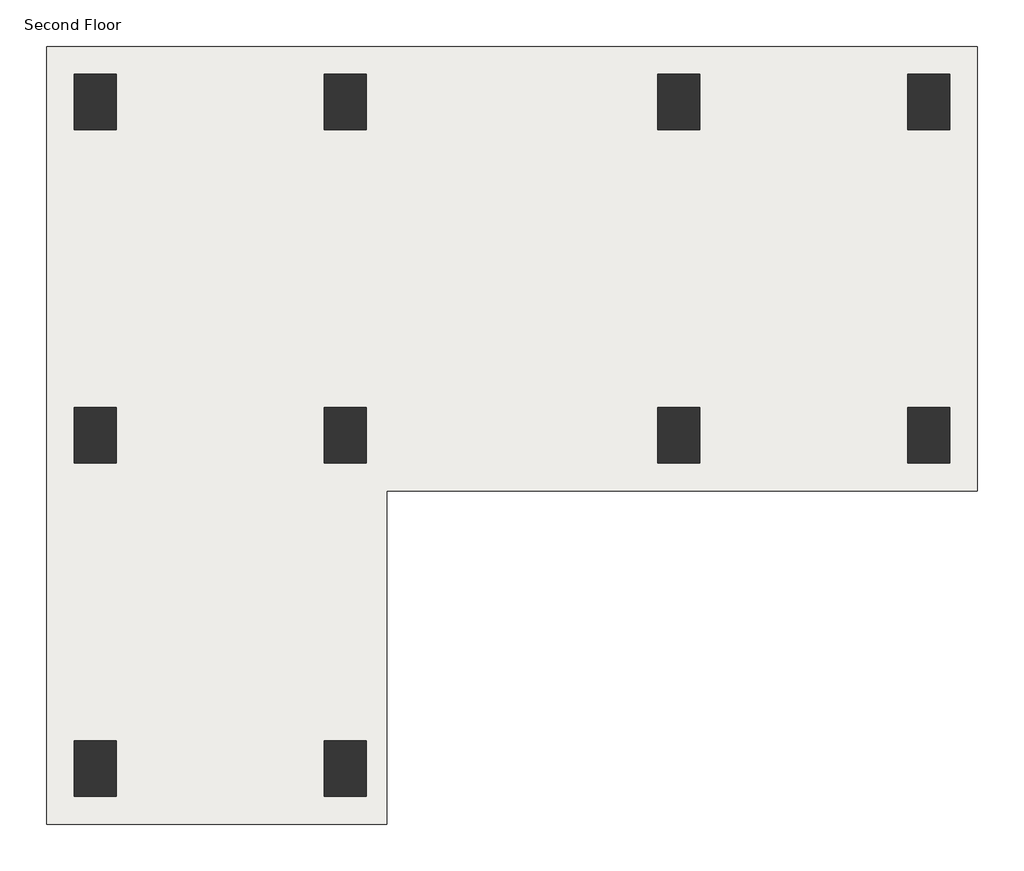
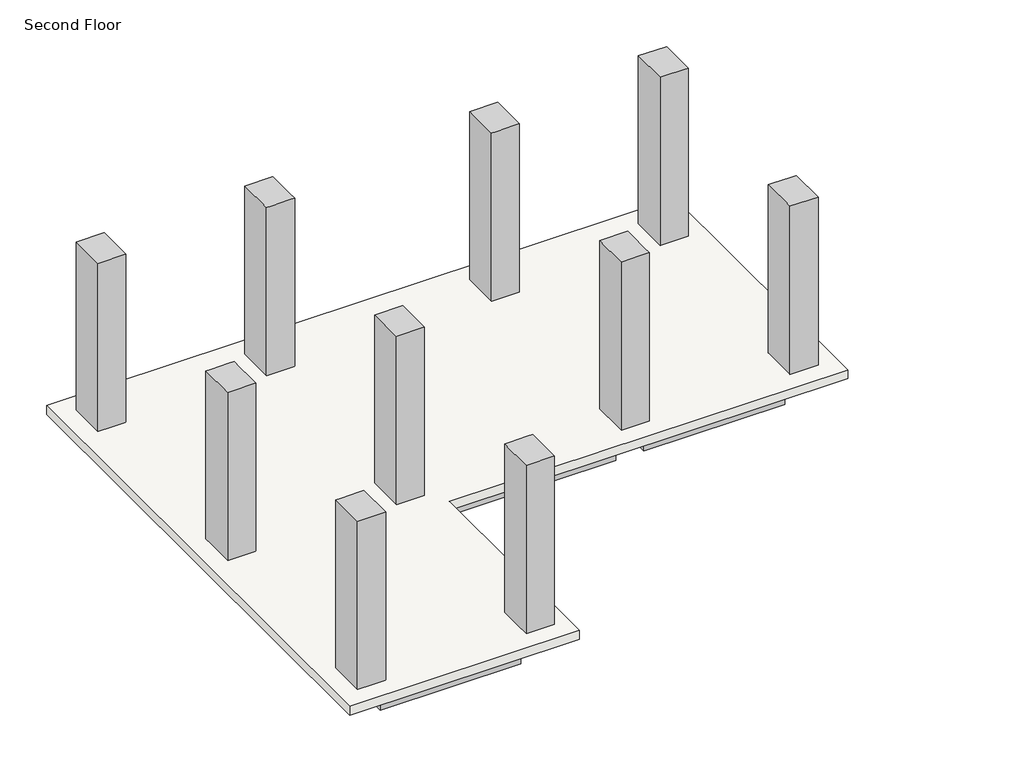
# One storey: 13 beams, 10 columns, 1 slab.
"""IFC4 building model written with IfcOpenShell, lengths in millimetres."""

import ifcopenshell
import ifcopenshell.guid

model = None  # the IFC model being written
_history = None  # IfcOwnerHistory: only IFC2X3 demands one
_inside = {}  # id of a spatial element -> (the spatial element, [elements in it])
_under = {}  # id of a project, library or spatial element -> (it, [spatial elements below it])
_declared = {}  # id of a project -> (the project, [libraries it declares])
_typed = {}  # id of a type object -> (the type object, [elements of that type])
_made_of = {}  # id of a material, layer set ... -> (it, [elements and type objects made of it])


def new_model(schema):
    """Start an empty IFC model of exactly this schema.

    Asked for "IFC4X3", IfcOpenShell would pick the latest addendum, in which some entities
    have other attributes; the version numbers below select the first issue.
    IFC2X3 requires an IfcOwnerHistory on every rooted entity: one is made here for all.
    """
    global model, _history
    if schema == "IFC4X3":
        model = ifcopenshell.file(schema_version=(4, 3, 0, 0))
    else:
        model = ifcopenshell.file(schema=schema)
    _inside.clear()
    _under.clear()
    _declared.clear()
    _typed.clear()
    _made_of.clear()
    _history = None
    if model.schema == "IFC2X3":
        org = make("IfcOrganization", Name="unknown")
        user = make(
            "IfcPersonAndOrganization",
            ThePerson=make("IfcPerson", FamilyName="unknown"),
            TheOrganization=org,
        )
        app = make(
            "IfcApplication",
            ApplicationDeveloper=org,
            Version="unknown",
            ApplicationFullName="unknown",
            ApplicationIdentifier="unknown",
        )
        _history = make(
            "IfcOwnerHistory",
            OwningUser=user,
            OwningApplication=app,
            ChangeAction="ADDED",
            CreationDate=0,
        )
    return model


def make(cls, **values):
    """One entity of the class cls with the attributes given. An attribute that is None is left unset."""
    return model.create_entity(
        cls, **{name: value for name, value in values.items() if value is not None}
    )


def rooted(cls, **values):
    """An entity with a GlobalId (a new one), such as an element, a storey or a relation."""
    return make(cls, GlobalId=ifcopenshell.guid.new(), OwnerHistory=_history, **values)


def si_unit(unit_type, name, prefix=None):
    """IfcSIUnit, for example si_unit("LENGTHUNIT", "METRE", prefix="MILLI")."""
    return make("IfcSIUnit", UnitType=unit_type, Prefix=prefix, Name=name)


def assignment(units):
    """IfcUnitAssignment: the units of a project."""
    return None if units is None else make("IfcUnitAssignment", Units=units)


def point(xyz):
    """IfcCartesianPoint."""
    return None if xyz is None else make("IfcCartesianPoint", Coordinates=xyz)


def direction(xyz):
    """IfcDirection."""
    return None if xyz is None else make("IfcDirection", DirectionRatios=xyz)


def frame(location, z_axis=None, x_axis=None):
    """IfcAxis2Placement3D, a coordinate frame: its origin and axes. An axis left out is left unset."""
    return make(
        "IfcAxis2Placement3D",
        Location=point(location),
        Axis=direction(z_axis),
        RefDirection=direction(x_axis),
    )


def origin():
    """The frame at (0, 0, 0) with its axes left unset."""
    return frame((0.0, 0.0, 0.0))


def place(relative_to, where):
    """IfcLocalPlacement: puts the frame where relative to a parent placement (None: the world)."""
    return make(
        "IfcLocalPlacement", PlacementRelTo=relative_to, RelativePlacement=where
    )


def context(
    kind, dimensions, precision=None, world=None, true_north=None, identifier=None
):
    """IfcGeometricRepresentationContext, for example the 3D "Model" context."""
    return make(
        "IfcGeometricRepresentationContext",
        ContextIdentifier=identifier,
        ContextType=kind,
        CoordinateSpaceDimension=dimensions,
        Precision=precision,
        WorldCoordinateSystem=world,
        TrueNorth=true_north,
    )


def project(units=None, contexts=None):
    """IfcProject with its units and contexts."""
    return rooted(
        "IfcProject",
        Name="project",
        RepresentationContexts=contexts,
        UnitsInContext=assignment(units),
    )


def spatial(cls, under=None, at=None, **own):
    """A site, building, storey or space (cls), placed at a placement, below another one or the project."""
    s = rooted(cls, ObjectPlacement=at, **own)
    if under is not None:
        _under.setdefault(under.id(), (under, []))[1].append(s)
    return s


def polyline(points):
    """IfcPolyline through the points."""
    return make("IfcPolyline", Points=[point(p) for p in points])


def outline(outer, holes=None, kind="AREA"):
    """IfcArbitraryClosedProfileDef: a profile drawn as a closed curve; with holes, ...WithVoids."""
    if holes is None:
        return make("IfcArbitraryClosedProfileDef", ProfileType=kind, OuterCurve=outer)
    return make(
        "IfcArbitraryProfileDefWithVoids",
        ProfileType=kind,
        OuterCurve=outer,
        InnerCurves=holes,
    )


def extrude(swept, where, along, depth):
    """IfcExtrudedAreaSolid: the profile swept, set in the frame where, extruded along a direction by depth."""
    return make(
        "IfcExtrudedAreaSolid",
        SweptArea=swept,
        Position=where,
        ExtrudedDirection=direction(along),
        Depth=depth,
    )


def faces_of(points, faces, orient=None, outer=None):
    """IfcFace entities. A face is a list of loops; a loop is a list of indices into points, from 0.

    orient and outer hold one flag for each loop. By default every Orientation is true, the
    first loop of a face is its IfcFaceOuterBound and the others are IfcFaceBound.
    """
    made = []
    for i, loops in enumerate(faces):
        bounds = []
        for j, loop in enumerate(loops):
            is_outer = j == 0 if outer is None else outer[i][j]
            bounds.append(
                make(
                    "IfcFaceOuterBound" if is_outer else "IfcFaceBound",
                    Bound=make("IfcPolyLoop", Polygon=[points[k] for k in loop]),
                    Orientation=True if orient is None else orient[i][j],
                )
            )
        made.append(make("IfcFace", Bounds=bounds))
    return made


def faceted_brep(points, faces, orient=None, outer=None, voids=None):
    """IfcFacetedBrep: a solid bounded by flat faces; with voids (closed shells), ...WithVoids."""
    shared = [point(p) for p in points]
    hull = make("IfcClosedShell", CfsFaces=faces_of(shared, faces, orient, outer))
    if voids is None:
        return make("IfcFacetedBrep", Outer=hull)
    return make(
        "IfcFacetedBrepWithVoids",
        Outer=hull,
        Voids=[
            make(cls, CfsFaces=faces_of(shared, fs, o, b)) for cls, fs, o, b in voids
        ],
    )


def shape(context_of_items, identifier, shape_type, items):
    """IfcShapeRepresentation: the items that make up one representation, for example the "Body"."""
    return make(
        "IfcShapeRepresentation",
        ContextOfItems=context_of_items,
        RepresentationIdentifier=identifier,
        RepresentationType=shape_type,
        Items=items,
    )


def made_of(thing, what):
    """Note that an element or type object is made of a material, layer set ...; save() writes the relation."""
    if what is not None:
        _made_of.setdefault(what.id(), (what, []))[1].append(thing)
    return thing


def element(
    cls,
    number,
    at=None,
    inside=None,
    cuts=None,
    type_object=None,
    material=None,
    context=None,
    identifier="Body",
    shape_type=None,
    held_by="IfcProductDefinitionShape",
    body=None,
    shapes=None,
    **own,
):
    """One element of the class cls, such as IfcWall. Its Tag is "e" and its number.

    at: its placement. inside: the storey or other place that contains it. cuts: it is an
    opening in that element (IfcRelVoidsElement). A single representation is given by context,
    identifier, shape_type and body (its items); several are given by shapes. held_by: the class
    of the entity that holds the representations. save() writes the other relations.
    """
    e = rooted(cls, Tag="e%d" % number, ObjectPlacement=at, **own)
    if body is not None:
        shapes = [shape(context, identifier, shape_type, body)]
    if shapes is not None:
        e.Representation = make(held_by, Representations=shapes)
    if inside is not None:
        _inside.setdefault(inside.id(), (inside, []))[1].append(e)
    if cuts is not None:
        rooted(
            "IfcRelVoidsElement", RelatingBuildingElement=cuts, RelatedOpeningElement=e
        )
    if type_object is not None:
        _typed.setdefault(type_object.id(), (type_object, []))[1].append(e)
    return made_of(e, material)


def aggregate(whole, parts):
    """IfcRelAggregates: a whole, such as a stair, and the parts it consists of."""
    return rooted("IfcRelAggregates", RelatingObject=whole, RelatedObjects=parts)


def save(model, path):
    """Write the relations noted so far, then the file.

    IfcRelAggregates (storeys below a building ...), IfcRelContainedInSpatialStructure (elements
    in a storey), IfcRelDefinesByType, IfcRelAssociatesMaterial and IfcRelDeclares: one each for
    every whole, place, type object, material and project.
    """
    for whole, parts in _under.values():
        aggregate(whole, parts)
    for where, things in _inside.values():
        rooted(
            "IfcRelContainedInSpatialStructure",
            RelatedElements=things,
            RelatingStructure=where,
        )
    for kind, things in _typed.values():
        rooted("IfcRelDefinesByType", RelatedObjects=things, RelatingType=kind)
    for what, things in _made_of.values():
        rooted("IfcRelAssociatesMaterial", RelatedObjects=things, RelatingMaterial=what)
    for by, libraries in _declared.values():
        rooted("IfcRelDeclares", RelatingContext=by, RelatedDefinitions=libraries)
    model.write(path)


model = new_model("IFC4")

# Units and contexts
model_context = context("Model", 3, world=origin())
ifc_project = project(units=[si_unit("LENGTHUNIT", "METRE", prefix="MILLI")], contexts=[model_context])

# Site, building, storey
site = spatial("IfcSite", under=ifc_project)
building = spatial("IfcBuilding", under=site)
storey = spatial("IfcBuildingStorey", under=building, Name="Second Floor", Elevation=9753.6)

# Beams
placement = place(None, origin())
element("IfcBeam", 1, ObjectType="Concrete-Rectangular Beam : 12 x 24", at=placement, inside=storey, context=model_context, shape_type="SweptSolid", body=[
    extrude(outline(polyline([(-23084.018666, 15705.8753347), (-23084.018666, 16010.6753347), (-20798.018666, 16010.6753347), (-20798.018666, 15705.8753347), (-23084.018666, 15705.8753347)])), frame((0.0, 0.0, 9144.0), z_axis=(0.0, 0.0, 1.0), x_axis=(1.0, 0.0, 0.0)), (0.0, 0.0, 1.0), 457.2),
])
element("IfcBeam", 2, ObjectType="Concrete-Rectangular Beam : 12 x 24", at=placement, inside=storey, context=model_context, shape_type="SweptSolid", body=[
    extrude(outline(polyline([(-20340.818666, 15705.8753347), (-20340.818666, 16010.6753347), (-17140.418666, 16010.6753347), (-17140.418666, 15705.8753347), (-20340.818666, 15705.8753347)])), frame((0.0, 0.0, 9144.0), z_axis=(0.0, 0.0, 1.0), x_axis=(1.0, 0.0, 0.0)), (0.0, 0.0, 1.0), 457.2),
])
element("IfcBeam", 3, ObjectType="Concrete-Rectangular Beam : 12 x 24", at=placement, inside=storey, context=model_context, shape_type="SweptSolid", body=[
    extrude(outline(polyline([(-16683.218666, 15705.8753347), (-16683.218666, 16010.6753347), (-14397.218666, 16010.6753347), (-14397.218666, 15705.8753347), (-16683.218666, 15705.8753347)])), frame((0.0, 0.0, 9144.0), z_axis=(0.0, 0.0, 1.0), x_axis=(1.0, 0.0, 0.0)), (0.0, 0.0, 1.0), 457.2),
])
element("IfcBeam", 4, ObjectType="Concrete-Rectangular Beam : 12 x 24", at=placement, inside=storey, context=model_context, shape_type="SweptSolid", body=[
    extrude(outline(polyline([(-14321.018666, 15553.4753347), (-14016.218666, 15553.4753347), (-14016.218666, 12505.4753347), (-14321.018666, 12505.4753347), (-14321.018666, 15553.4753347)])), frame((0.0, 0.0, 9144.0), z_axis=(0.0, 0.0, 1.0), x_axis=(1.0, 0.0, 0.0)), (0.0, 0.0, 1.0), 457.2),
])
element("IfcBeam", 5, ObjectType="Concrete-Rectangular Beam : 12 x 24", at=placement, inside=storey, context=model_context, shape_type="SweptSolid", body=[
    extrude(outline(polyline([(-16683.218666, 12048.2753347), (-16683.218666, 12353.0753347), (-14397.218666, 12353.0753347), (-14397.218666, 12048.2753347), (-16683.218666, 12048.2753347)])), frame((0.0, 0.0, 9144.0), z_axis=(0.0, 0.0, 1.0), x_axis=(1.0, 0.0, 0.0)), (0.0, 0.0, 1.0), 457.2),
])
element("IfcBeam", 6, ObjectType="Concrete-Rectangular Beam : 12 x 24", at=placement, inside=storey, context=model_context, shape_type="SweptSolid", body=[
    extrude(outline(polyline([(-20340.818666, 12048.2753347), (-20340.818666, 12353.0753347), (-17140.418666, 12353.0753347), (-17140.418666, 12048.2753347), (-20340.818666, 12048.2753347)])), frame((0.0, 0.0, 9144.0), z_axis=(0.0, 0.0, 1.0), x_axis=(1.0, 0.0, 0.0)), (0.0, 0.0, 1.0), 457.2),
])
element("IfcBeam", 7, ObjectType="Concrete-Rectangular Beam : 12 x 24", at=placement, inside=storey, context=model_context, shape_type="SweptSolid", body=[
    extrude(outline(polyline([(-20721.818666, 11895.8753347), (-20417.018666, 11895.8753347), (-20417.018666, 8847.8753347), (-20721.818666, 8847.8753347), (-20721.818666, 11895.8753347)])), frame((0.0, 0.0, 9144.0), z_axis=(0.0, 0.0, 1.0), x_axis=(1.0, 0.0, 0.0)), (0.0, 0.0, 1.0), 457.2),
])
element("IfcBeam", 8, ObjectType="Concrete-Rectangular Beam : 12 x 24", at=placement, inside=storey, context=model_context, shape_type="SweptSolid", body=[
    extrude(outline(polyline([(-23084.018666, 8390.6753347), (-23084.018666, 8695.4753347), (-20798.018666, 8695.4753347), (-20798.018666, 8390.6753347), (-23084.018666, 8390.6753347)])), frame((0.0, 0.0, 9144.0), z_axis=(0.0, 0.0, 1.0), x_axis=(1.0, 0.0, 0.0)), (0.0, 0.0, 1.0), 457.2),
])
element("IfcBeam", 9, ObjectType="Concrete-Rectangular Beam : 12 x 24", at=placement, inside=storey, context=model_context, shape_type="SweptSolid", body=[
    extrude(outline(polyline([(-23465.018666, 11895.8753347), (-23160.218666, 11895.8753347), (-23160.218666, 8847.8753347), (-23465.018666, 8847.8753347), (-23465.018666, 11895.8753347)])), frame((0.0, 0.0, 9144.0), z_axis=(0.0, 0.0, 1.0), x_axis=(1.0, 0.0, 0.0)), (0.0, 0.0, 1.0), 457.2),
])
element("IfcBeam", 10, ObjectType="Concrete-Rectangular Beam : 12 x 24", at=placement, inside=storey, context=model_context, shape_type="SweptSolid", body=[
    extrude(outline(polyline([(-23465.018666, 15553.4753347), (-23160.218666, 15553.4753347), (-23160.218666, 12505.4753347), (-23465.018666, 12505.4753347), (-23465.018666, 15553.4753347)])), frame((0.0, 0.0, 9144.0), z_axis=(0.0, 0.0, 1.0), x_axis=(1.0, 0.0, 0.0)), (0.0, 0.0, 1.0), 457.2),
])
element("IfcBeam", 11, ObjectType="Concrete-Rectangular Beam : 12 x 24", at=placement, inside=storey, context=model_context, shape_type="SweptSolid", body=[
    extrude(outline(polyline([(-20721.818666, 15553.4753347), (-20417.018666, 15553.4753347), (-20417.018666, 12505.4753347), (-20721.818666, 12505.4753347), (-20721.818666, 15553.4753347)])), frame((0.0, 0.0, 9144.0), z_axis=(0.0, 0.0, 1.0), x_axis=(1.0, 0.0, 0.0)), (0.0, 0.0, 1.0), 457.2),
])
element("IfcBeam", 12, ObjectType="Concrete-Rectangular Beam : 12 x 24", at=placement, inside=storey, context=model_context, shape_type="SweptSolid", body=[
    extrude(outline(polyline([(-23084.018666, 12048.2753347), (-23084.018666, 12353.0753347), (-20798.018666, 12353.0753347), (-20798.018666, 12048.2753347), (-23084.018666, 12048.2753347)])), frame((0.0, 0.0, 9144.0), z_axis=(0.0, 0.0, 1.0), x_axis=(1.0, 0.0, 0.0)), (0.0, 0.0, 1.0), 457.2),
])
element("IfcBeam", 13, ObjectType="Concrete-Rectangular Beam : 12 x 24", at=placement, inside=storey, context=model_context, shape_type="SweptSolid", body=[
    extrude(outline(polyline([(-17064.218666, 15553.4753347), (-16759.418666, 15553.4753347), (-16759.418666, 12505.4753347), (-17064.218666, 12505.4753347), (-17064.218666, 15553.4753347)])), frame((0.0, 0.0, 9144.0), z_axis=(0.0, 0.0, 1.0), x_axis=(1.0, 0.0, 0.0)), (0.0, 0.0, 1.0), 457.2),
])

# Columns
element("IfcColumn", 14, ObjectType="Concrete-Rectangular-Column : 18 x 24", at=placement, inside=storey, context=model_context, shape_type="Brep", body=[
    faceted_brep([(-23084.018666, 16163.0753347, 9753.6), (-23084.018666, 15553.4753347, 9753.6), (-23541.218666, 15553.4753347, 9753.6), (-23541.218666, 16163.0753347, 9753.6), (-23084.018666, 16163.0753347, 12649.2), (-23084.018666, 16010.6753347, 12649.2), (-23084.018666, 15705.8753347, 12649.2), (-23084.018666, 15553.4753347, 12649.2), (-23160.218666, 15553.4753347, 12649.2), (-23465.018666, 15553.4753347, 12649.2), (-23541.218666, 15553.4753347, 12649.2), (-23541.218666, 16163.0753347, 12649.2)], [[[0, 1, 2, 3]], [[1, 0, 4, 5, 6, 7]], [[2, 1, 7, 8, 9, 10]], [[3, 2, 10, 11]], [[0, 3, 11, 4]], [[7, 6, 5, 4, 11, 10, 9, 8]]]),
])
element("IfcColumn", 15, ObjectType="Concrete-Rectangular-Column : 18 x 24", at=placement, inside=storey, context=model_context, shape_type="Brep", body=[
    faceted_brep([(-20340.818666, 16163.0753347, 9753.6), (-20340.818666, 15553.4753347, 9753.6), (-20798.018666, 15553.4753347, 9753.6), (-20798.018666, 16163.0753347, 9753.6), (-20340.818666, 16163.0753347, 12649.2), (-20340.818666, 16010.6753347, 12649.2), (-20340.818666, 15705.8753347, 12649.2), (-20340.818666, 15553.4753347, 12649.2), (-20417.018666, 15553.4753347, 12649.2), (-20721.818666, 15553.4753347, 12649.2), (-20798.018666, 15553.4753347, 12649.2), (-20798.018666, 15705.8753347, 12649.2), (-20798.018666, 16010.6753347, 12649.2), (-20798.018666, 16163.0753347, 12649.2)], [[[0, 1, 2, 3]], [[1, 0, 4, 5, 6, 7]], [[2, 1, 7, 8, 9, 10]], [[3, 2, 10, 11, 12, 13]], [[0, 3, 13, 4]], [[7, 6, 5, 4, 13, 12, 11, 10, 9, 8]]]),
])
element("IfcColumn", 16, ObjectType="Concrete-Rectangular-Column : 18 x 24", at=placement, inside=storey, context=model_context, shape_type="Brep", body=[
    faceted_brep([(-16683.218666, 16163.0753347, 9753.6), (-16683.218666, 15553.4753347, 9753.6), (-17140.418666, 15553.4753347, 9753.6), (-17140.418666, 16163.0753347, 9753.6), (-16683.218666, 16163.0753347, 12649.2), (-16683.218666, 16010.6753347, 12649.2), (-16683.218666, 15705.8753347, 12649.2), (-16683.218666, 15553.4753347, 12649.2), (-16759.418666, 15553.4753347, 12649.2), (-17064.218666, 15553.4753347, 12649.2), (-17140.418666, 15553.4753347, 12649.2), (-17140.418666, 15705.8753347, 12649.2), (-17140.418666, 16010.6753347, 12649.2), (-17140.418666, 16163.0753347, 12649.2)], [[[0, 1, 2, 3]], [[1, 0, 4, 5, 6, 7]], [[2, 1, 7, 8, 9, 10]], [[3, 2, 10, 11, 12, 13]], [[0, 3, 13, 4]], [[7, 6, 5, 4, 13, 12, 11, 10, 9, 8]]]),
])
element("IfcColumn", 17, ObjectType="Concrete-Rectangular-Column : 18 x 24", at=placement, inside=storey, context=model_context, shape_type="Brep", body=[
    faceted_brep([(-13940.018666, 16163.0753347, 9753.6), (-13940.018666, 15553.4753347, 9753.6), (-14397.218666, 15553.4753347, 9753.6), (-14397.218666, 16163.0753347, 9753.6), (-13940.018666, 16163.0753347, 12649.2), (-13940.018666, 15553.4753347, 12649.2), (-14016.218666, 15553.4753347, 12649.2), (-14321.018666, 15553.4753347, 12649.2), (-14397.218666, 15553.4753347, 12649.2), (-14397.218666, 15705.8753347, 12649.2), (-14397.218666, 16010.6753347, 12649.2), (-14397.218666, 16163.0753347, 12649.2)], [[[0, 1, 2, 3]], [[1, 0, 4, 5]], [[2, 1, 5, 6, 7, 8]], [[3, 2, 8, 9, 10, 11]], [[0, 3, 11, 4]], [[5, 4, 11, 10, 9, 8, 7, 6]]]),
])
element("IfcColumn", 18, ObjectType="Concrete-Rectangular-Column : 18 x 24", at=placement, inside=storey, context=model_context, shape_type="Brep", body=[
    faceted_brep([(-23084.018666, 12505.4753347, 9753.6), (-23084.018666, 11895.8753347, 9753.6), (-23541.218666, 11895.8753347, 9753.6), (-23541.218666, 12505.4753347, 9753.6), (-23084.018666, 12505.4753347, 12649.2), (-23084.018666, 12353.0753347, 12649.2), (-23084.018666, 12048.2753347, 12649.2), (-23084.018666, 11895.8753347, 12649.2), (-23160.218666, 11895.8753347, 12649.2), (-23465.018666, 11895.8753347, 12649.2), (-23541.218666, 11895.8753347, 12649.2), (-23541.218666, 12505.4753347, 12649.2), (-23465.018666, 12505.4753347, 12649.2), (-23160.218666, 12505.4753347, 12649.2)], [[[0, 1, 2, 3]], [[1, 0, 4, 5, 6, 7]], [[2, 1, 7, 8, 9, 10]], [[3, 2, 10, 11]], [[0, 3, 11, 12, 13, 4]], [[7, 6, 5, 4, 13, 12, 11, 10, 9, 8]]]),
])
element("IfcColumn", 19, ObjectType="Concrete-Rectangular-Column : 18 x 24", at=placement, inside=storey, context=model_context, shape_type="Brep", body=[
    faceted_brep([(-20340.818666, 12505.4753347, 9753.6), (-20340.818666, 11895.8753347, 9753.6), (-20798.018666, 11895.8753347, 9753.6), (-20798.018666, 12505.4753347, 9753.6), (-20340.818666, 12505.4753347, 12649.2), (-20340.818666, 12353.0753347, 12649.2), (-20340.818666, 12048.2753347, 12649.2), (-20340.818666, 11895.8753347, 12649.2), (-20417.018666, 11895.8753347, 12649.2), (-20721.818666, 11895.8753347, 12649.2), (-20798.018666, 11895.8753347, 12649.2), (-20798.018666, 12048.2753347, 12649.2), (-20798.018666, 12353.0753347, 12649.2), (-20798.018666, 12505.4753347, 12649.2), (-20721.818666, 12505.4753347, 12649.2), (-20417.018666, 12505.4753347, 12649.2)], [[[0, 1, 2, 3]], [[1, 0, 4, 5, 6, 7]], [[2, 1, 7, 8, 9, 10]], [[3, 2, 10, 11, 12, 13]], [[0, 3, 13, 14, 15, 4]], [[7, 6, 5, 4, 15, 14, 13, 12, 11, 10, 9, 8]]]),
])
element("IfcColumn", 20, ObjectType="Concrete-Rectangular-Column : 18 x 24", at=placement, inside=storey, context=model_context, shape_type="Brep", body=[
    faceted_brep([(-16683.218666, 12505.4753347, 9753.6), (-16683.218666, 11895.8753347, 9753.6), (-17140.418666, 11895.8753347, 9753.6), (-17140.418666, 12505.4753347, 9753.6), (-16683.218666, 12505.4753347, 12649.2), (-16683.218666, 12353.0753347, 12649.2), (-16683.218666, 12048.2753347, 12649.2), (-16683.218666, 11895.8753347, 12649.2), (-17140.418666, 11895.8753347, 12649.2), (-17140.418666, 12048.2753347, 12649.2), (-17140.418666, 12353.0753347, 12649.2), (-17140.418666, 12505.4753347, 12649.2), (-17064.218666, 12505.4753347, 12649.2), (-16759.418666, 12505.4753347, 12649.2)], [[[0, 1, 2, 3]], [[1, 0, 4, 5, 6, 7]], [[2, 1, 7, 8]], [[3, 2, 8, 9, 10, 11]], [[0, 3, 11, 12, 13, 4]], [[7, 6, 5, 4, 13, 12, 11, 10, 9, 8]]]),
])
element("IfcColumn", 21, ObjectType="Concrete-Rectangular-Column : 18 x 24", at=placement, inside=storey, context=model_context, shape_type="Brep", body=[
    faceted_brep([(-13940.018666, 12505.4753347, 9753.6), (-13940.018666, 11895.8753347, 9753.6), (-14397.218666, 11895.8753347, 9753.6), (-14397.218666, 12505.4753347, 9753.6), (-13940.018666, 12505.4753347, 12649.2), (-13940.018666, 11895.8753347, 12649.2), (-14397.218666, 11895.8753347, 12649.2), (-14397.218666, 12048.2753347, 12649.2), (-14397.218666, 12353.0753347, 12649.2), (-14397.218666, 12505.4753347, 12649.2), (-14321.018666, 12505.4753347, 12649.2), (-14016.218666, 12505.4753347, 12649.2)], [[[0, 1, 2, 3]], [[1, 0, 4, 5]], [[2, 1, 5, 6]], [[3, 2, 6, 7, 8, 9]], [[0, 3, 9, 10, 11, 4]], [[5, 4, 11, 10, 9, 8, 7, 6]]]),
])
element("IfcColumn", 22, ObjectType="Concrete-Rectangular-Column : 18 x 24", at=placement, inside=storey, context=model_context, shape_type="Brep", body=[
    faceted_brep([(-23084.018666, 8847.8753347, 9753.6), (-23084.018666, 8238.2753347, 9753.6), (-23541.218666, 8238.2753347, 9753.6), (-23541.218666, 8847.8753347, 9753.6), (-23084.018666, 8847.8753347, 12649.2), (-23084.018666, 8695.4753347, 12649.2), (-23084.018666, 8390.6753347, 12649.2), (-23084.018666, 8238.2753347, 12649.2), (-23541.218666, 8238.2753347, 12649.2), (-23541.218666, 8847.8753347, 12649.2), (-23465.018666, 8847.8753347, 12649.2), (-23160.218666, 8847.8753347, 12649.2)], [[[0, 1, 2, 3]], [[1, 0, 4, 5, 6, 7]], [[2, 1, 7, 8]], [[3, 2, 8, 9]], [[0, 3, 9, 10, 11, 4]], [[7, 6, 5, 4, 11, 10, 9, 8]]]),
])
element("IfcColumn", 23, ObjectType="Concrete-Rectangular-Column : 18 x 24", at=placement, inside=storey, context=model_context, shape_type="Brep", body=[
    faceted_brep([(-20340.818666, 8847.8753347, 9753.6), (-20340.818666, 8238.2753347, 9753.6), (-20798.018666, 8238.2753347, 9753.6), (-20798.018666, 8847.8753347, 9753.6), (-20340.818666, 8847.8753347, 12649.2), (-20340.818666, 8238.2753347, 12649.2), (-20798.018666, 8238.2753347, 12649.2), (-20798.018666, 8390.6753347, 12649.2), (-20798.018666, 8695.4753347, 12649.2), (-20798.018666, 8847.8753347, 12649.2), (-20721.818666, 8847.8753347, 12649.2), (-20417.018666, 8847.8753347, 12649.2)], [[[0, 1, 2, 3]], [[1, 0, 4, 5]], [[2, 1, 5, 6]], [[3, 2, 6, 7, 8, 9]], [[0, 3, 9, 10, 11, 4]], [[5, 4, 11, 10, 9, 8, 7, 6]]]),
])

# Slab
element("IfcSlab", 24, ObjectType="6\" Concrete", at=placement, inside=storey, context=model_context, shape_type="SweptSolid", body=[
    extrude(outline(polyline([(-13635.218666, 11591.0753347), (-20112.218666, 11591.0753347), (-20112.218666, 7933.4753347), (-23846.018666, 7933.4753347), (-23846.018666, 16467.8753347), (-13635.218666, 16467.8753347), (-13635.218666, 11591.0753347)])), frame((0.0, 0.0, 9601.2), z_axis=(0.0, 0.0, 1.0), x_axis=(1.0, 0.0, 0.0)), (0.0, 0.0, 1.0), 152.4),
])

save(model, "model.ifc")
